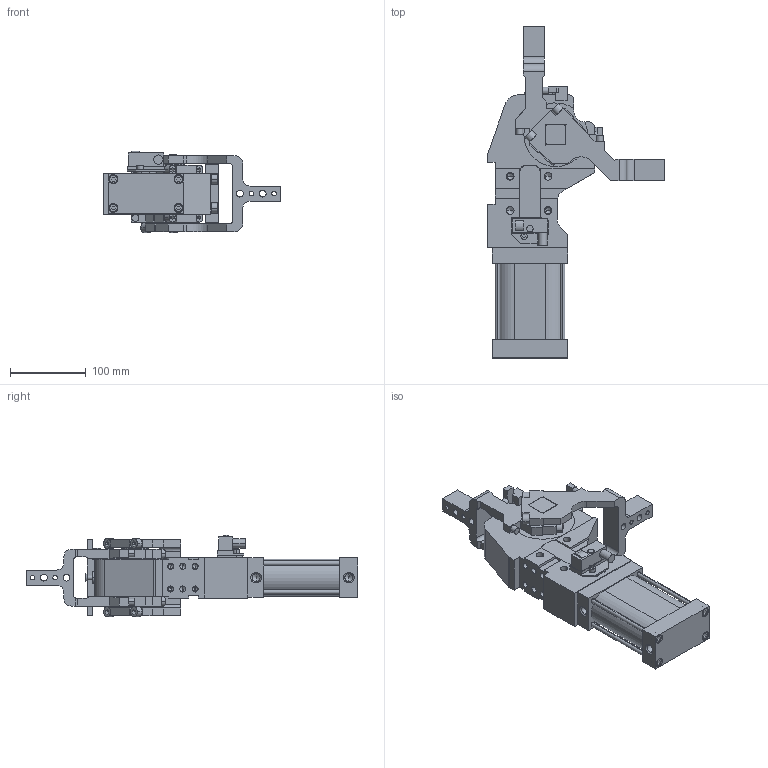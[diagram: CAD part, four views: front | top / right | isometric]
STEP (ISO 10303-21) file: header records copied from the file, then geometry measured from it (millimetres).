
FILE_DESCRIPTION (( 'STEP AP214' ), '1' );
FILE_NAME ('dl63b2c_i.STEP', '2014-03-17T09:13:08', ( 'vep' ), ( 'TOSHIBA' ), 'SwSTEP 2.0', 'SolidWorks 2013', '' );
FILE_SCHEMA (( 'AUTOMOTIVE_DESIGN' ));
Length unit declared in the file: millimetre
Products named in the file (8): riparo_laterale_dl63; leva_inferiore_dl63; gruppo_montante_dl63; leva_superiore_dl63; tassello_fermo_leva_dl63; blocchetto_p&f_90; dl63b2c_i; fc_induttivo_dl63
Assembly tree (8 placements, depth 2):
  dl63b2c_i
    gruppo_montante_dl63
    riparo_laterale_dl63
    fc_induttivo_dl63
    blocchetto_p&f_90
    tassello_fermo_leva_dl63  x2
    leva_superiore_dl63
    leva_inferiore_dl63
Bounding box: 233.5 x 438 x 107.3 mm (x, y, z)
Volume: 2153650.8 mm3; surface area: 293057.1 mm2
Topology: 8 solids, 8 shells, 813 faces, 2179 edges, 1393 vertices
Faces by surface type: plane 524, cylinder 241, cone 48
Entity records: 24907 total; most frequent: DIRECTION 4083, CARTESIAN_POINT 4082, ORIENTED_EDGE 3982, EDGE_CURVE 1991, LINE 1423, VECTOR 1423, AXIS2_PLACEMENT_3D 1330, VERTEX_POINT 1297
